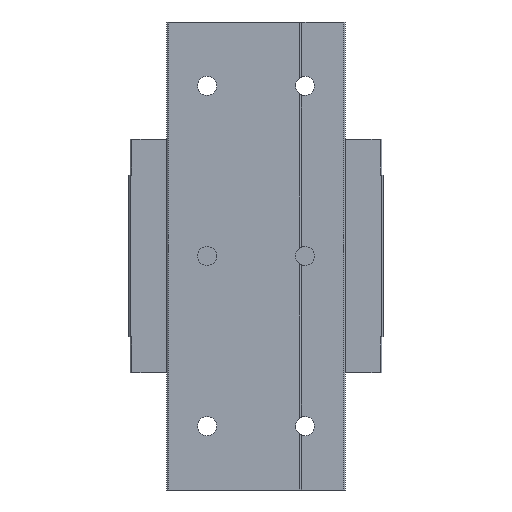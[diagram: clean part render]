
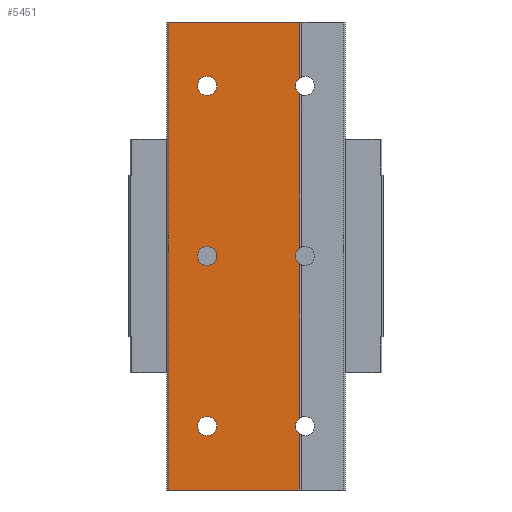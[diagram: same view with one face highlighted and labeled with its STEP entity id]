
A CAD part, front view. The second image highlights one B-rep face of the part: STEP entity #5451.
In plain terms, the highlighted planar face has unit normal (0, -1, 0).
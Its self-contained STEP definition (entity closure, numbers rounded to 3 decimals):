
#23 = AXIS2_PLACEMENT_3D ( 'NONE', #4026, #662, #1133 ) ;
#58 = CARTESIAN_POINT ( 'NONE',  ( 10.2, 0., 55. ) ) ;
#110 = EDGE_CURVE ( 'NONE', #2389, #3413, #1951, .T. ) ;
#176 = EDGE_LOOP ( 'NONE', ( #1762, #2039 ) ) ;
#187 = EDGE_LOOP ( 'NONE', ( #4212, #2668 ) ) ;
#204 = EDGE_CURVE ( 'NONE', #3744, #5176, #1138, .T. ) ;
#261 = CARTESIAN_POINT ( 'NONE',  ( -11.5, 0., -37.75 ) ) ;
#278 = DIRECTION ( 'NONE',  ( 0., -1., 0. ) ) ;
#284 = VECTOR ( 'NONE', #836, 1000. ) ;
#332 = DIRECTION ( 'NONE',  ( 0., 0., -1. ) ) ;
#427 = VERTEX_POINT ( 'NONE', #1848 ) ;
#444 = ORIENTED_EDGE ( 'NONE', *, *, #3049, .F. ) ;
#448 = DIRECTION ( 'NONE',  ( 0., 0., -1. ) ) ;
#473 = DIRECTION ( 'NONE',  ( 0., 0., -1. ) ) ;
#481 = VERTEX_POINT ( 'NONE', #3434 ) ;
#491 = AXIS2_PLACEMENT_3D ( 'NONE', #1223, #1676, #332 ) ;
#502 = AXIS2_PLACEMENT_3D ( 'NONE', #4857, #3479, #448 ) ;
#521 = CARTESIAN_POINT ( 'NONE',  ( 10.2, 0., 55. ) ) ;
#608 = EDGE_CURVE ( 'NONE', #3413, #3169, #4607, .T. ) ;
#619 = CARTESIAN_POINT ( 'NONE',  ( 11.5, 0., 40. ) ) ;
#662 = DIRECTION ( 'NONE',  ( 0., 1., 0. ) ) ;
#703 = EDGE_CURVE ( 'NONE', #3334, #427, #3275, .T. ) ;
#713 = ORIENTED_EDGE ( 'NONE', *, *, #5117, .F. ) ;
#836 = DIRECTION ( 'NONE',  ( 0., 0., -1. ) ) ;
#891 = DIRECTION ( 'NONE',  ( 0., -1., 0. ) ) ;
#903 = EDGE_CURVE ( 'NONE', #5176, #3744, #958, .T. ) ;
#906 = CARTESIAN_POINT ( 'NONE',  ( 11.5, 0., -40. ) ) ;
#953 = EDGE_CURVE ( 'NONE', #1396, #2583, #3748, .T. ) ;
#958 = CIRCLE ( 'NONE', #3585, 2.25 ) ;
#982 = DIRECTION ( 'NONE',  ( 0., -1., 0. ) ) ;
#1063 = DIRECTION ( 'NONE',  ( 0., 0., -1. ) ) ;
#1062 = CARTESIAN_POINT ( 'NONE',  ( 10.2, 0., 1.836 ) ) ;
#1066 = CARTESIAN_POINT ( 'NONE',  ( -11.5, 0., 37.75 ) ) ;
#1133 = DIRECTION ( 'NONE',  ( 1., 0., 0. ) ) ;
#1138 = CIRCLE ( 'NONE', #1873, 2.25 ) ;
#1208 = CIRCLE ( 'NONE', #491, 2.25 ) ;
#1223 = CARTESIAN_POINT ( 'NONE',  ( -11.5, 0., 0. ) ) ;
#1235 = DIRECTION ( 'NONE',  ( 0., 0., -1. ) ) ;
#1298 = VERTEX_POINT ( 'NONE', #3940 ) ;
#1305 = LINE ( 'NONE', #4656, #4749 ) ;
#1319 = DIRECTION ( 'NONE',  ( 0., 0., -1. ) ) ;
#1347 = LINE ( 'NONE', #58, #3732 ) ;
#1359 = CARTESIAN_POINT ( 'NONE',  ( -11.5, 0., -42.25 ) ) ;
#1396 = VERTEX_POINT ( 'NONE', #1857 ) ;
#1457 = VECTOR ( 'NONE', #4428, 1000. ) ;
#1462 = CARTESIAN_POINT ( 'NONE',  ( 10.2, 0., 41.836 ) ) ;
#1512 = EDGE_CURVE ( 'NONE', #1875, #1771, #4570, .T. ) ;
#1549 = EDGE_CURVE ( 'NONE', #4308, #5519, #1305, .T. ) ;
#1568 = DIRECTION ( 'NONE',  ( 0., -1., 0. ) ) ;
#1659 = DIRECTION ( 'NONE',  ( -1., 0., 0. ) ) ;
#1676 = DIRECTION ( 'NONE',  ( 0., -1., 0. ) ) ;
#1687 = LINE ( 'NONE', #5503, #2051 ) ;
#1757 = CIRCLE ( 'NONE', #5002, 2.25 ) ;
#1762 = ORIENTED_EDGE ( 'NONE', *, *, #903, .F. ) ;
#1771 = VERTEX_POINT ( 'NONE', #261 ) ;
#1777 = EDGE_CURVE ( 'NONE', #4148, #1298, #1757, .T. ) ;
#1822 = DIRECTION ( 'NONE',  ( 0., -1., 0. ) ) ;
#1848 = CARTESIAN_POINT ( 'NONE',  ( 10.2, 0., 38.164 ) ) ;
#1855 = FACE_OUTER_BOUND ( 'NONE', #2708, .T. ) ;
#1857 = CARTESIAN_POINT ( 'NONE',  ( -11.5, 0., 2.25 ) ) ;
#1873 = AXIS2_PLACEMENT_3D ( 'NONE', #3911, #982, #1319 ) ;
#1875 = VERTEX_POINT ( 'NONE', #1359 ) ;
#1928 = ORIENTED_EDGE ( 'NONE', *, *, #4077, .F. ) ;
#1951 = CIRCLE ( 'NONE', #2692, 2.25 ) ;
#1971 = CARTESIAN_POINT ( 'NONE',  ( -11.5, 0., -40. ) ) ;
#2014 = CIRCLE ( 'NONE', #502, 2.25 ) ;
#2039 = ORIENTED_EDGE ( 'NONE', *, *, #204, .F. ) ;
#2051 = VECTOR ( 'NONE', #1659, 1000. ) ;
#2059 = ORIENTED_EDGE ( 'NONE', *, *, #110, .F. ) ;
#2061 = EDGE_CURVE ( 'NONE', #1771, #1875, #2014, .T. ) ;
#2084 = DIRECTION ( 'NONE',  ( -1., 0., 0. ) ) ;
#2186 = DIRECTION ( 'NONE',  ( 0., 0., -1. ) ) ;
#2209 = FACE_BOUND ( 'NONE', #187, .T. ) ;
#2213 = EDGE_LOOP ( 'NONE', ( #3869, #4841 ) ) ;
#2303 = CARTESIAN_POINT ( 'NONE',  ( -20.6, 0., 55. ) ) ;
#2389 = VERTEX_POINT ( 'NONE', #3783 ) ;
#2456 = CARTESIAN_POINT ( 'NONE',  ( -11.5, 0., 42.25 ) ) ;
#2463 = CARTESIAN_POINT ( 'NONE',  ( -20.6, 0., 55. ) ) ;
#2583 = VERTEX_POINT ( 'NONE', #4536 ) ;
#2601 = LINE ( 'NONE', #4310, #4635 ) ;
#2668 = ORIENTED_EDGE ( 'NONE', *, *, #2061, .F. ) ;
#2692 = AXIS2_PLACEMENT_3D ( 'NONE', #906, #1822, #3430 ) ;
#2708 = EDGE_LOOP ( 'NONE', ( #2059, #713, #2884, #3976, #4472, #444, #5236, #1928, #3907, #5592 ) ) ;
#2713 = CARTESIAN_POINT ( 'NONE',  ( 10.2, 0., 55. ) ) ;
#2720 = DIRECTION ( 'NONE',  ( 0., 0., -1. ) ) ;
#2737 = FACE_BOUND ( 'NONE', #2213, .T. ) ;
#2740 = LINE ( 'NONE', #2303, #1457 ) ;
#2884 = ORIENTED_EDGE ( 'NONE', *, *, #1777, .F. ) ;
#2928 = DIRECTION ( 'NONE',  ( 0., -1., 0. ) ) ;
#3049 = EDGE_CURVE ( 'NONE', #4308, #3334, #3214, .T. ) ;
#3169 = VERTEX_POINT ( 'NONE', #4799 ) ;
#3214 = LINE ( 'NONE', #2713, #4762 ) ;
#3275 = CIRCLE ( 'NONE', #5422, 2.25 ) ;
#3313 = AXIS2_PLACEMENT_3D ( 'NONE', #1971, #1568, #4146 ) ;
#3334 = VERTEX_POINT ( 'NONE', #1462 ) ;
#3413 = VERTEX_POINT ( 'NONE', #3877 ) ;
#3430 = DIRECTION ( 'NONE',  ( 0., 0., -1. ) ) ;
#3434 = CARTESIAN_POINT ( 'NONE',  ( -20.6, 0., -55. ) ) ;
#3479 = DIRECTION ( 'NONE',  ( 0., -1., 0. ) ) ;
#3585 = AXIS2_PLACEMENT_3D ( 'NONE', #4190, #2928, #3720 ) ;
#3720 = DIRECTION ( 'NONE',  ( 0., 0., -1. ) ) ;
#3732 = VECTOR ( 'NONE', #3969, 1000. ) ;
#3744 = VERTEX_POINT ( 'NONE', #2456 ) ;
#3748 = CIRCLE ( 'NONE', #4830, 2.25 ) ;
#3783 = CARTESIAN_POINT ( 'NONE',  ( 10.2, 0., -38.164 ) ) ;
#3869 = ORIENTED_EDGE ( 'NONE', *, *, #4695, .F. ) ;
#3877 = CARTESIAN_POINT ( 'NONE',  ( 10.2, 0., -41.836 ) ) ;
#3907 = ORIENTED_EDGE ( 'NONE', *, *, #4041, .F. ) ;
#3911 = CARTESIAN_POINT ( 'NONE',  ( -11.5, 0., 40. ) ) ;
#3939 = FACE_BOUND ( 'NONE', #176, .T. ) ;
#3940 = CARTESIAN_POINT ( 'NONE',  ( 10.2, 0., -1.836 ) ) ;
#3969 = DIRECTION ( 'NONE',  ( 0., 0., -1. ) ) ;
#3976 = ORIENTED_EDGE ( 'NONE', *, *, #4559, .F. ) ;
#4026 = CARTESIAN_POINT ( 'NONE',  ( -21., 0., 55. ) ) ;
#4041 = EDGE_CURVE ( 'NONE', #3169, #481, #1687, .T. ) ;
#4077 = EDGE_CURVE ( 'NONE', #481, #5519, #2740, .T. ) ;
#4146 = DIRECTION ( 'NONE',  ( 0., 0., -1. ) ) ;
#4148 = VERTEX_POINT ( 'NONE', #1062 ) ;
#4190 = CARTESIAN_POINT ( 'NONE',  ( -11.5, 0., 40. ) ) ;
#4196 = DIRECTION ( 'NONE',  ( 0., -1., 0. ) ) ;
#4212 = ORIENTED_EDGE ( 'NONE', *, *, #1512, .F. ) ;
#4308 = VERTEX_POINT ( 'NONE', #521 ) ;
#4310 = CARTESIAN_POINT ( 'NONE',  ( 10.2, 0., 55. ) ) ;
#4428 = DIRECTION ( 'NONE',  ( 0., 0., 1. ) ) ;
#4472 = ORIENTED_EDGE ( 'NONE', *, *, #703, .F. ) ;
#4536 = CARTESIAN_POINT ( 'NONE',  ( -11.5, 0., -2.25 ) ) ;
#4559 = EDGE_CURVE ( 'NONE', #427, #4148, #1347, .T. ) ;
#4570 = CIRCLE ( 'NONE', #3313, 2.25 ) ;
#4607 = LINE ( 'NONE', #5484, #284 ) ;
#4614 = CARTESIAN_POINT ( 'NONE',  ( 11.5, 0., 0. ) ) ;
#4635 = VECTOR ( 'NONE', #2186, 1000. ) ;
#4656 = CARTESIAN_POINT ( 'NONE',  ( 10.5, 0., 55. ) ) ;
#4695 = EDGE_CURVE ( 'NONE', #2583, #1396, #1208, .T. ) ;
#4749 = VECTOR ( 'NONE', #2084, 1000. ) ;
#4762 = VECTOR ( 'NONE', #1063, 1000. ) ;
#4799 = CARTESIAN_POINT ( 'NONE',  ( 10.2, 0., -55. ) ) ;
#4830 = AXIS2_PLACEMENT_3D ( 'NONE', #5577, #891, #473 ) ;
#4841 = ORIENTED_EDGE ( 'NONE', *, *, #953, .F. ) ;
#4857 = CARTESIAN_POINT ( 'NONE',  ( -11.5, 0., -40. ) ) ;
#5002 = AXIS2_PLACEMENT_3D ( 'NONE', #4614, #4196, #2720 ) ;
#5117 = EDGE_CURVE ( 'NONE', #1298, #2389, #2601, .T. ) ;
#5176 = VERTEX_POINT ( 'NONE', #1066 ) ;
#5236 = ORIENTED_EDGE ( 'NONE', *, *, #1549, .T. ) ;
#5284 = PLANE ( 'NONE',  #23 ) ;
#5422 = AXIS2_PLACEMENT_3D ( 'NONE', #619, #278, #1235 ) ;
#5451 = ADVANCED_FACE ( 'NONE', ( #2209, #2737, #3939, #1855 ), #5284, .F. ) ;
#5484 = CARTESIAN_POINT ( 'NONE',  ( 10.2, 0., 55. ) ) ;
#5503 = CARTESIAN_POINT ( 'NONE',  ( 10.5, 0., -55. ) ) ;
#5519 = VERTEX_POINT ( 'NONE', #2463 ) ;
#5577 = CARTESIAN_POINT ( 'NONE',  ( -11.5, 0., 0. ) ) ;
#5592 = ORIENTED_EDGE ( 'NONE', *, *, #608, .F. ) ;
